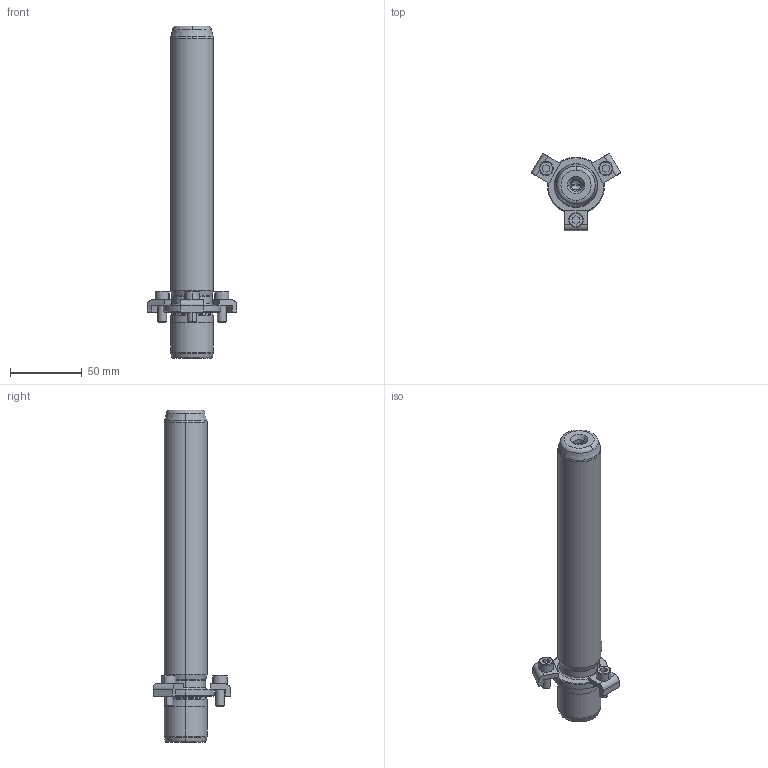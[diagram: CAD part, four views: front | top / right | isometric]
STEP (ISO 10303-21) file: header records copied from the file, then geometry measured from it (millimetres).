
FILE_DESCRIPTION((''),'2;1');
FILE_NAME('P21_030_200.stp','2008-12-23T09:57:07',(''),(''),'Mechanical Desktop 2009','Mechanical Desktop 2009',', , ');
FILE_SCHEMA(('CONFIG_CONTROL_DESIGN'));
Length unit declared in the file: millimetre
Products named in the file (2): Product; blmdl1
Assembly tree (1 placements, depth 2):
  Product
    blmdl1
Bounding box: 62.51 x 54.13 x 232 mm (x, y, z)
Volume: 167999.3 mm3; surface area: 29797.8 mm2
Topology: 7 solids, 7 shells, 163 faces, 399 edges, 257 vertices
Faces by surface type: plane 59, cylinder 44, cone 32, torus 14, bspline 14
Entity records: 5517 total; most frequent: CARTESIAN_POINT 1433, DIRECTION 908, ORIENTED_EDGE 790, EDGE_CURVE 395, AXIS2_PLACEMENT_3D 362, VERTEX_POINT 257, CIRCLE 211, VECTOR 184
